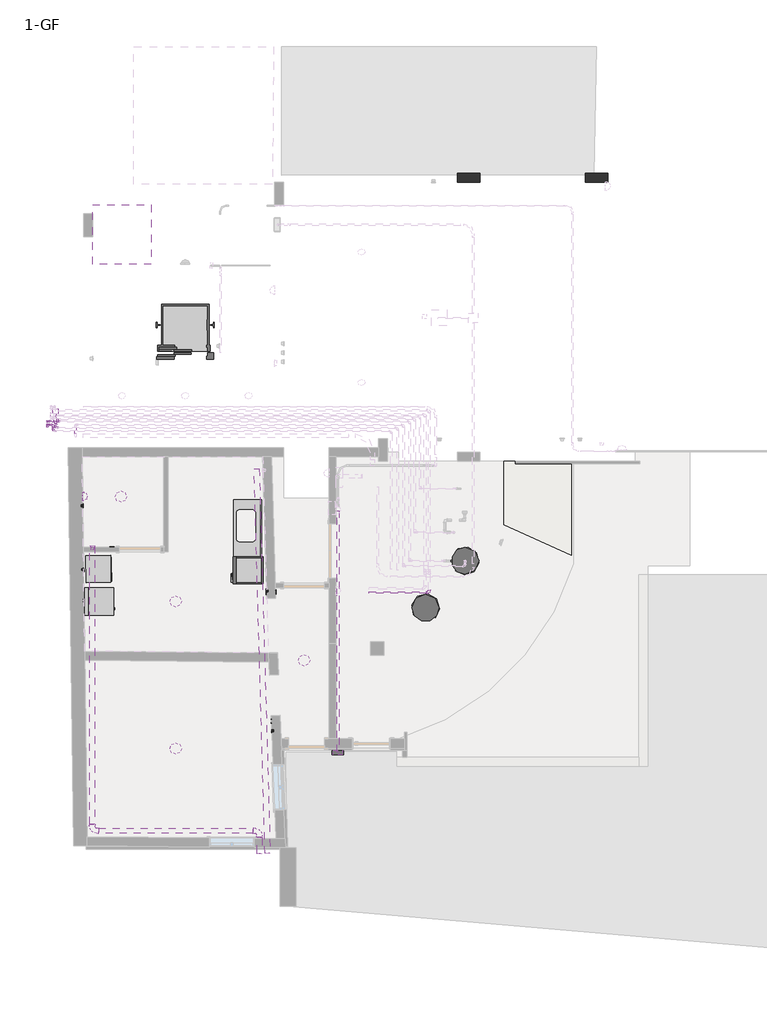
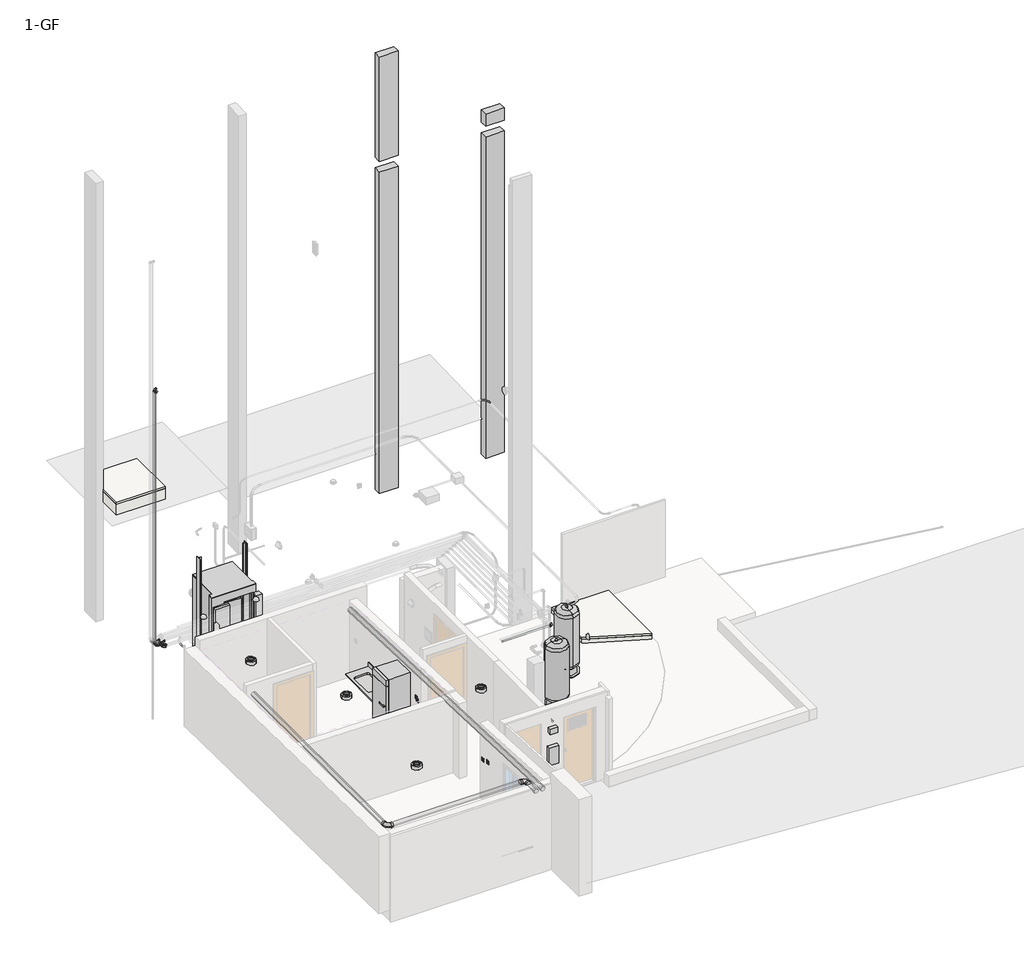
# One storey, part 2 of 5: 18 pipe segments, 15 pipe fittings, 13 proxies, 5 light fixtures, 4 switching devices, 3 flow terminals, 2 cable carrier segments, 2 columns, 3 other elements.
"""IFC4 building model written with IfcOpenShell, lengths in millimetres."""

from ifc_helpers import new_model, si_unit, point, frame, frame_2d, origin, place, context, project, spatial, polyline, circle_curve, trimmed, segment, composite_curve, outline, extrude, faceted_brep, transform, mapped, element, save
from components import dryer_1_nz_685_x_635_x_890mm_1b06d572, lighting_and_appliance_panelboard_100_a_b21e7274, lighting_and_appliance_panelboard_100_a_2_c7281d6f, m_electric_lift_4_person_wall_based_type_1_27931067, refrigerator_1_nz_600_x_660mm_a466bf94, wall_mounted_socket_ups_wall_mounted_socket_ups_4524048d, washer_2_nz_600_x_820_x_550mm_c1fca6b6, flow_terminal_60cm_be37bac6, fd_20cm_2b2fa0e1, hot_water_tank_60cm_0c93d085, counter_top_w_sink_600mm_depth_91ecdec2, ceiling_round_ceiling_round_0a96185f, street_light_07_uk_wall_mounted_e56fcad9, m_bend_pvc_sch_40_dwv_standard_48d77e49, m_bend_pvc_sch_40_dwv_standard_1fb0f857, m_bend_pvc_sch_40_dwv_standard_b153bf5a, m_bend_pvc_sch_40_dwv_standard_6bafc166, m_bend_pvc_sch_40_dwv_standard_f7713f3f, m_bend_pvc_sch_40_dwv_standard_1eaeee76, m_bend_pvc_sch_40_dwv_standard_be9000f5, switching_device_ab05ab5c

model = new_model("IFC4")

# Units and contexts
model_context = context("Model", 3, world=origin())
ifc_project = project(units=[si_unit("LENGTHUNIT", "METRE", prefix="MILLI")], contexts=[model_context])

# Site, building, storey
site = spatial("IfcSite", under=ifc_project)
building = spatial("IfcBuilding", under=site)
storey = spatial("IfcBuildingStorey", under=building, Name="1-GF", Elevation=580.0)

# Proxies
placement = place(None, origin())
dryer_1_nz_685_x_635_x_890mm_shape = dryer_1_nz_685_x_635_x_890mm_1b06d572(model_context)
element("IfcBuildingElementProxy", 1, Name="Dryer 1 (NZ) : 685 x 635 x 890mm", ObjectType="Dryer 1 (NZ) : 685 x 635 x 890mm", at=placement, inside=storey, context=model_context, shape_type="MappedRepresentation", body=[
    mapped(dryer_1_nz_685_x_635_x_890mm_shape, transform((-4395.3155884, -601.6313909, 580.0), x_axis=(0.0, 1.0, 0.0), y_axis=(-1.0, 0.0, 0.0), z_axis=(0.0, 0.0, 1.0))),
])
lighting_and_appliance_panelboard_100_a_shape = lighting_and_appliance_panelboard_100_a_b21e7274(model_context)
element("IfcBuildingElementProxy", 2, Name="Lighting and Appliance Panelboard : 100 A", ObjectType="Lighting and Appliance Panelboard : 100 A", at=placement, inside=storey, context=model_context, shape_type="MappedRepresentation", body=[
    mapped(lighting_and_appliance_panelboard_100_a_shape, transform((566.2825594, -3552.0661424, 2060.9), x_axis=(1.0, 0.0, 0.0), y_axis=(0.0, 0.0, -1.0), z_axis=(0.0, 1.0, 0.0))),
])
lighting_and_appliance_panelboard_100_a_2_shape = lighting_and_appliance_panelboard_100_a_2_c7281d6f(model_context)
element("IfcBuildingElementProxy", 3, Name="Lighting and Appliance Panelboard : 100 A 2", ObjectType="Lighting and Appliance Panelboard : 100 A 2", at=placement, inside=storey, context=model_context, shape_type="MappedRepresentation", body=[
    mapped(lighting_and_appliance_panelboard_100_a_2_shape, transform((566.2825594, -3552.0661424, 1360.9), x_axis=(1.0, 0.0, 0.0), y_axis=(0.0, 0.0, -1.0), z_axis=(0.0, 1.0, 0.0))),
])
m_electric_lift_4_person_wall_based_type_1_shape = m_electric_lift_4_person_wall_based_type_1_27931067(model_context)
element("IfcBuildingElementProxy", 4, Name="M_Electric Lift-4 person wall based : Type 1", ObjectType="M_Electric Lift-4 person wall based : Type 1", at=placement, inside=storey, context=model_context, shape_type="MappedRepresentation", body=[
    mapped(m_electric_lift_4_person_wall_based_type_1_shape, transform((-2932.4765921, 5159.4560655, 0.0), x_axis=(1.0, 0.0, 0.0), y_axis=(0.0, 1.0, 0.0), z_axis=(0.0, 0.0, 1.0))),
])
refrigerator_1_nz_600_x_660mm_shape = refrigerator_1_nz_600_x_660mm_a466bf94(model_context)
element("IfcBuildingElementProxy", 5, Name="Refrigerator 1 (NZ) : 600 x 660mm", ObjectType="Refrigerator 1 (NZ) : 600 x 660mm", at=placement, inside=storey, context=model_context, shape_type="MappedRepresentation", body=[
    mapped(refrigerator_1_nz_600_x_660mm_shape, transform((-1386.3916823, 370.3476194, 580.0), x_axis=(0.0, -1.0, 0.0), y_axis=(1.0, 0.0, 0.0), z_axis=(0.0, 0.0, 1.0))),
])
wall_mounted_socket_ups_wall_mounted_socket_ups_shape = wall_mounted_socket_ups_wall_mounted_socket_ups_4524048d(model_context)
element("IfcBuildingElementProxy", 6, Name="WALL MOUNTED SOCKET : WALL MOUNTED SOCKET", ObjectType="WALL MOUNTED SOCKET : WALL MOUNTED SOCKET", at=placement, inside=storey, context=model_context, shape_type="MappedRepresentation", body=[
    mapped(wall_mounted_socket_ups_wall_mounted_socket_ups_shape, transform((522.5234079, -365.5439345, 1030.0), x_axis=(0.0, 1.0, 0.0), y_axis=(0.0, 0.0, 1.0), z_axis=(1.0, 0.0, 0.0))),
])
element("IfcBuildingElementProxy", 7, Name="WALL MOUNTED SOCKET : WALL MOUNTED SOCKET", ObjectType="WALL MOUNTED SOCKET : WALL MOUNTED SOCKET", at=placement, inside=storey, context=model_context, shape_type="MappedRepresentation", body=[
    mapped(wall_mounted_socket_ups_wall_mounted_socket_ups_shape, transform((-5055.0472552, 441.8174885, 1780.0), x_axis=(-0.013162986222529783, 0.999913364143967, 0.0), y_axis=(0.0, 0.0, 1.0000000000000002), z_axis=(0.999913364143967, 0.013162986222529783, 0.0))),
])
element("IfcBuildingElementProxy", 8, Name="WALL MOUNTED SOCKET : WALL MOUNTED SOCKET", ObjectType="WALL MOUNTED SOCKET : WALL MOUNTED SOCKET", at=placement, inside=storey, context=model_context, shape_type="MappedRepresentation", body=[
    mapped(wall_mounted_socket_ups_wall_mounted_socket_ups_shape, transform((-5046.0332423, -242.9231833, 1780.0), x_axis=(-0.013162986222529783, 0.999913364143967, 0.0), y_axis=(0.0, 0.0, 1.0000000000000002), z_axis=(0.999913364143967, 0.013162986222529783, 0.0))),
])
element("IfcBuildingElementProxy", 9, Name="WALL MOUNTED SOCKET UPS : WALL MOUNTED SOCKET UPS", ObjectType="WALL MOUNTED SOCKET UPS : WALL MOUNTED SOCKET UPS", at=placement, inside=storey, context=model_context, shape_type="MappedRepresentation", body=[
    mapped(wall_mounted_socket_ups_wall_mounted_socket_ups_shape, transform((-5073.5891991, 1850.3381055, 1780.0), x_axis=(-0.013162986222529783, 0.999913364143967, 0.0), y_axis=(0.0, 0.0, 1.0000000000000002), z_axis=(0.999913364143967, 0.013162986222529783, 0.0))),
])
element("IfcBuildingElementProxy", 10, Name="WALL MOUNTED SOCKET UPS : WALL MOUNTED SOCKET UPS", ObjectType="WALL MOUNTED SOCKET UPS : WALL MOUNTED SOCKET UPS", at=placement, inside=storey, context=model_context, shape_type="MappedRepresentation", body=[
    mapped(wall_mounted_socket_ups_wall_mounted_socket_ups_shape, transform((-1009.4389595, -31.4858602, 1780.0), x_axis=(0.028460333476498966, -0.9995949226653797, 0.0), y_axis=(0.0, 0.0, 1.0), z_axis=(-0.9995949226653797, -0.028460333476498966, 0.0))),
])
element("IfcBuildingElementProxy", 11, Name="WALL MOUNTED SOCKET UPS : WALL MOUNTED SOCKET UPS", ObjectType="WALL MOUNTED SOCKET UPS : WALL MOUNTED SOCKET UPS", at=placement, inside=storey, context=model_context, shape_type="MappedRepresentation", body=[
    mapped(wall_mounted_socket_ups_wall_mounted_socket_ups_shape, transform((-891.4109413, -3120.1403573, 1780.0), x_axis=(0.03991052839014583, -0.9992032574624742, 0.0), y_axis=(0.0, 0.0, 1.0), z_axis=(-0.9992032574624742, -0.03991052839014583, 0.0))),
])
element("IfcBuildingElementProxy", 12, Name="WALL MOUNTED SOCKET UPS : WALL MOUNTED SOCKET UPS", ObjectType="WALL MOUNTED SOCKET UPS : WALL MOUNTED SOCKET UPS", at=placement, inside=storey, context=model_context, shape_type="MappedRepresentation", body=[
    mapped(wall_mounted_socket_ups_wall_mounted_socket_ups_shape, transform((-4857.4765921, 934.4560655, 2380.0), x_axis=(-1.0, 0.0, 0.0), y_axis=(0.0, 0.0, 1.0), z_axis=(0.0, 1.0, 0.0))),
])
washer_2_nz_600_x_820_x_550mm_shape = washer_2_nz_600_x_820_x_550mm_c1fca6b6(model_context)
element("IfcBuildingElementProxy", 13, Name="Washer 2 (NZ) : 600 x 820 x 550mm", ObjectType="Washer 2 (NZ) : 600 x 820 x 550mm", at=placement, inside=storey, context=model_context, shape_type="MappedRepresentation", body=[
    mapped(washer_2_nz_600_x_820_x_550mm_shape, transform((-5203.1562847, 297.1844984, 580.0), x_axis=(0.013162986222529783, -0.999913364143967, 0.0), y_axis=(0.999913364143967, 0.013162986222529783, 0.0), z_axis=(0.0, 0.0, 1.0))),
])

# Cable carrier segments
element("IfcCableCarrierSegment", 14, ObjectType="Electrical Metallic Tubing (EMT)", at=placement, inside=storey, context=model_context, shape_type="SweptSolid", body=[
    extrude(outline(composite_curve([segment(trimmed(circle_curve(frame_2d((510.825, 574.1505251)), 19.175), [point((510.825, 554.9755251))], [point((491.65, 574.1505251))], False, "CARTESIAN"), True, "CONTINUOUS"), segment(trimmed(circle_curve(frame_2d((510.825, 574.1505251)), 19.175), [point((491.65, 574.1505251))], [point((510.825, 593.3255251))], False, "CARTESIAN"), True, "CONTINUOUS"), segment(trimmed(circle_curve(frame_2d((510.825, 574.1505251)), 19.175), [point((510.825, 593.3255251))], [point((530.0, 574.1505251))], False, "CARTESIAN"), True, "CONTINUOUS"), segment(trimmed(circle_curve(frame_2d((510.825, 574.1505251)), 19.175), [point((530.0, 574.1505251))], [point((510.825, 554.9755251))], False, "CARTESIAN"), True, "CONTINUOUS")], self_intersect=False)), frame((0.0, -3379.382133, 0.0), z_axis=(0.0, 1.0, 0.0), x_axis=(0.0, 0.0, 1.0)), (0.0, 0.0, 1.0), 5600.47),
])
element("IfcCableCarrierSegment", 15, ObjectType="Low Current", at=placement, inside=storey, context=model_context, shape_type="SweptSolid", body=[
    extrude(outline(composite_curve([segment(trimmed(circle_curve(frame_2d((2703.1, 572.5468157)), 19.175), [point((2703.1, 553.3718157))], [point((2683.925, 572.5468157))], False, "CARTESIAN"), True, "CONTINUOUS"), segment(trimmed(circle_curve(frame_2d((2703.1, 572.5468157)), 19.175), [point((2683.925, 572.5468157))], [point((2703.1, 591.7218157))], False, "CARTESIAN"), True, "CONTINUOUS"), segment(trimmed(circle_curve(frame_2d((2703.1, 572.5468157)), 19.175), [point((2703.1, 591.7218157))], [point((2722.275, 572.5468157))], False, "CARTESIAN"), True, "CONTINUOUS"), segment(trimmed(circle_curve(frame_2d((2703.1, 572.5468157)), 19.175), [point((2722.275, 572.5468157))], [point((2703.1, 553.3718157))], False, "CARTESIAN"), True, "CONTINUOUS")], self_intersect=False)), frame((0.0, -3591.5141674, 0.0), z_axis=(0.0, 1.0, 0.0), x_axis=(0.0, 0.0, 1.0)), (0.0, 0.0, 1.0), 5337.5841674),
])

# Columns
element("IfcColumn", 16, ObjectType="M_Concrete-Rectangular-Column : 200 x500mm", at=placement, inside=storey, context=model_context, shape_type="Brep", body=[
    faceted_brep([(6542.5234079, 9201.6620874, 580.0), (6542.5234079, 9001.6620874, 580.0), (6042.5234079, 9001.6620874, 580.0), (6042.5234079, 9201.6620874, 580.0), (6542.5234079, 9001.6620874, 9650.0), (6542.5234079, 9201.6620874, 9650.0), (6042.5234079, 9201.6620874, 9650.0), (6042.5234079, 9001.6620874, 9650.0), (6542.5234079, 9201.6620874, 2750.0), (6542.5234079, 9201.6620874, 3000.0), (6542.5234079, 9201.6620874, 6550.0), (6542.5234079, 9001.6620874, 6550.0), (6542.5234079, 9001.6620874, 3000.0), (6542.5234079, 9001.6620874, 2750.0), (6042.5234079, 9001.6620874, 6550.0), (6042.5234079, 9001.6620874, 3000.0), (6042.5234079, 9001.6620874, 2750.0), (6042.5234079, 9201.6620874, 6550.0), (6042.5234079, 9201.6620874, 3000.0), (6042.5234079, 9201.6620874, 2750.0)], [[[0, 1, 2, 3]], [[4, 5, 6, 7]], [[1, 0, 8, 9, 10, 5, 4, 11, 12, 13]], [[2, 1, 13, 12, 11, 4, 7, 14, 15, 16]], [[3, 2, 16, 15, 14, 7, 6, 17, 18, 19]], [[0, 3, 19, 18, 17, 6, 5, 10, 9, 8]]]),
    faceted_brep([(6542.5234079, 9201.6620874, 10300.0), (6542.5234079, 9001.6620874, 10300.0), (6542.5234079, 9001.6620874, 9950.0), (6542.5234079, 9201.6620874, 9950.0), (6042.5234079, 9001.6620874, 10300.0), (6042.5234079, 9001.6620874, 9950.0), (6042.5234079, 9201.6620874, 10300.0), (6042.5234079, 9201.6620874, 9950.0)], [[[0, 1, 2, 3]], [[1, 4, 5, 2]], [[4, 6, 7, 5]], [[6, 0, 3, 7]], [[1, 0, 6, 4]], [[3, 2, 5, 7]]]),
])
element("IfcColumn", 17, ObjectType="M_Concrete-Rectangular-Column : 200 x500mm", at=placement, inside=storey, context=model_context, shape_type="Brep", body=[
    faceted_brep([(3712.5234079, 9201.6620874, 571.2417781), (3712.5234079, 9001.6620874, 571.2417781), (3212.5234079, 9001.6620874, 571.2417781), (3212.5234079, 9201.6620874, 571.2417781), (3712.5234079, 9001.6620874, 9650.0), (3712.5234079, 9201.6620874, 9650.0), (3212.5234079, 9201.6620874, 9650.0), (3212.5234079, 9001.6620874, 9650.0), (3712.5234079, 9201.6620874, 2750.0), (3712.5234079, 9201.6620874, 3000.0), (3712.5234079, 9201.6620874, 6550.0), (3712.5234079, 9001.6620874, 6550.0), (3712.5234079, 9001.6620874, 3000.0), (3712.5234079, 9001.6620874, 2750.0), (3212.5234079, 9001.6620874, 6550.0), (3212.5234079, 9001.6620874, 3000.0), (3212.5234079, 9001.6620874, 1950.0), (3212.5234079, 9201.6620874, 6550.0), (3212.5234079, 9201.6620874, 3000.0), (3212.5234079, 9201.6620874, 1950.0)], [[[0, 1, 2, 3]], [[4, 5, 6, 7]], [[1, 0, 8, 9, 10, 5, 4, 11, 12, 13]], [[2, 1, 13, 12, 11, 4, 7, 14, 15, 16]], [[3, 2, 16, 15, 14, 7, 6, 17, 18, 19]], [[0, 3, 19, 18, 17, 6, 5, 10, 9, 8]]]),
    faceted_brep([(3712.5234079, 9201.6620874, 12900.0), (3712.5234079, 9001.6620874, 12900.0), (3712.5234079, 9001.6620874, 9950.0), (3712.5234079, 9201.6620874, 9950.0), (3212.5234079, 9001.6620874, 12900.0), (3212.5234079, 9001.6620874, 9950.0), (3212.5234079, 9201.6620874, 12900.0), (3212.5234079, 9201.6620874, 9950.0)], [[[0, 1, 2, 3]], [[1, 4, 5, 2]], [[4, 6, 7, 5]], [[6, 0, 3, 7]], [[1, 0, 6, 4]], [[3, 2, 5, 7]]]),
])

# Flow terminals
flow_terminal_60cm_shape = flow_terminal_60cm_be37bac6(model_context)
element("IfcFlowTerminal", 18, ObjectType="_DUPLEX SOFTENER 60CM - : 60CM", at=placement, inside=storey, context=model_context, shape_type="MappedRepresentation", body=[
    mapped(flow_terminal_60cm_shape, transform((2507.7234079, -405.1794405, 580.0), x_axis=(1.0, 0.0, 0.0), y_axis=(0.0, 1.0, 0.0), z_axis=(0.0, 0.0, 1.0))),
])
fd_20cm_shape = fd_20cm_2b2fa0e1(model_context)
element("IfcFlowTerminal", 19, ObjectType="FD : 20cm", at=placement, inside=storey, context=model_context, shape_type="MappedRepresentation", body=[
    mapped(fd_20cm_shape, transform((2026.3853705, 1619.6205595, 580.0), x_axis=(1.0, 0.0, 0.0), y_axis=(0.0, 1.0, 0.0), z_axis=(0.0, 0.0, 1.0))),
])
hot_water_tank_60cm_shape = hot_water_tank_60cm_0c93d085(model_context)
element("IfcFlowTerminal", 20, ObjectType="Hot Water Tank : 60CM", at=placement, inside=storey, context=model_context, shape_type="MappedRepresentation", body=[
    mapped(hot_water_tank_60cm_shape, transform((3382.5234079, 634.4560655, 580.0), x_axis=(0.0, -1.0, 0.0), y_axis=(1.0, 0.0, 0.0), z_axis=(0.0, 0.0, 1.0))),
])

# Furniture
counter_top_w_sink_600mm_depth_shape = counter_top_w_sink_600mm_depth_91ecdec2(model_context)
element("IfcFurniture", 21, ObjectType="Counter Top w Sink : 600mm Depth", at=placement, inside=storey, context=model_context, shape_type="MappedRepresentation", body=[
    mapped(counter_top_w_sink_600mm_depth_shape, transform((-1117.4765921, 783.9937704, 580.0), x_axis=(0.0, -1.0, 0.0), y_axis=(1.0, 0.0, 0.0), z_axis=(0.0, 0.0, 1.0))),
])

# Light fixtures
ceiling_round_ceiling_round_shape = ceiling_round_ceiling_round_0a96185f(model_context)
element("IfcLightFixture", 22, ObjectType="Ceiling - Round : Ceiling - Round", at=placement, inside=storey, context=model_context, shape_type="MappedRepresentation", body=[
    mapped(ceiling_round_ceiling_round_shape, transform((-177.4765921, -1565.5439345, 299.6), x_axis=(1.0, 0.0, 0.0), y_axis=(0.0, 1.0, 0.0), z_axis=(0.0, 0.0, 1.0))),
])
element("IfcLightFixture", 23, ObjectType="Ceiling - Round : Ceiling - Round", at=placement, inside=storey, context=model_context, shape_type="MappedRepresentation", body=[
    mapped(ceiling_round_ceiling_round_shape, transform((-4227.8606653, 2054.4560655, 299.6), x_axis=(1.0, 0.0, 0.0), y_axis=(0.0, 1.0, 0.0), z_axis=(0.0, 0.0, 1.0))),
])
element("IfcLightFixture", 24, ObjectType="Ceiling - Round : Ceiling - Round", at=placement, inside=storey, context=model_context, shape_type="MappedRepresentation", body=[
    mapped(ceiling_round_ceiling_round_shape, transform((-3017.9439676, -262.6636781, 299.6), x_axis=(1.0, 0.0, 0.0), y_axis=(0.0, 1.0, 0.0), z_axis=(0.0, 0.0, 1.0))),
])
element("IfcLightFixture", 25, ObjectType="Ceiling - Round : Ceiling - Round", at=placement, inside=storey, context=model_context, shape_type="MappedRepresentation", body=[
    mapped(ceiling_round_ceiling_round_shape, transform((-3017.9439676, -3512.6824155, 299.6), x_axis=(1.0, 0.0, 0.0), y_axis=(0.0, 1.0, 0.0), z_axis=(0.0, 0.0, 1.0))),
])
street_light_07_uk_wall_mounted_shape = street_light_07_uk_wall_mounted_e56fcad9(model_context)
element("IfcLightFixture", 26, ObjectType="Street Light 07 (UK) : Wall Mounted", at=placement, inside=storey, context=model_context, shape_type="MappedRepresentation", body=[
    mapped(street_light_07_uk_wall_mounted_shape, transform((-5227.9544526, 2180.9530517, 101.3392083), x_axis=(0.013162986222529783, -0.999913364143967, 0.0), y_axis=(0.999913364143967, 0.013162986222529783, 0.0), z_axis=(0.0, 0.0, 1.0))),
])

# Pipe fittings
m_bend_pvc_sch_40_dwv_standard_shape = m_bend_pvc_sch_40_dwv_standard_48d77e49(model_context)
element("IfcPipeFitting", 27, ObjectType="M_Bend - PVC - Sch 40 - DWV : Standard", at=placement, inside=storey, context=model_context, shape_type="MappedRepresentation", body=[
    mapped(m_bend_pvc_sch_40_dwv_standard_shape, transform((2587.5267351, -64.801296, 2580.0), x_axis=(1.0, 0.0, 0.0), y_axis=(0.0, 1.0, 0.0), z_axis=(0.0, 0.0, 1.0))),
])
m_bend_pvc_sch_40_dwv_standard_2_shape = m_bend_pvc_sch_40_dwv_standard_1fb0f857(model_context)
element("IfcPipeFitting", 28, ObjectType="M_Bend - PVC - Sch 40 - DWV : Standard", at=placement, inside=storey, context=model_context, shape_type="MappedRepresentation", body=[
    mapped(m_bend_pvc_sch_40_dwv_standard_2_shape, transform((-4865.9473838, -5330.6289214, 2700.0), x_axis=(0.0, -1.0, 0.0), y_axis=(1.0, 0.0, 0.0), z_axis=(0.0, 0.0, 1.0))),
])
element("IfcPipeFitting", 29, ObjectType="M_Bend - PVC - Sch 40 - DWV : Standard", at=placement, inside=storey, context=model_context, shape_type="MappedRepresentation", body=[
    mapped(m_bend_pvc_sch_40_dwv_standard_2_shape, transform((-1165.9473838, -5330.6289214, 2700.0), x_axis=(0.0, 1.0, 0.0), y_axis=(-1.0, 0.0, 0.0), z_axis=(0.0, 0.0, 1.0))),
])
m_bend_pvc_sch_40_dwv_standard_3_shape = m_bend_pvc_sch_40_dwv_standard_b153bf5a(model_context)
element("IfcPipeFitting", 30, ObjectType="M_Bend - PVC - Sch 40 - DWV : Standard", at=placement, inside=storey, context=model_context, shape_type="MappedRepresentation", body=[
    mapped(m_bend_pvc_sch_40_dwv_standard_3_shape, transform((-5629.7730546, 3714.4560655, 2580.0), x_axis=(0.0, -1.0, 0.0), y_axis=(0.0, 0.0, 1.0), z_axis=(-1.0, 0.0, 0.0))),
])
element("IfcPipeFitting", 31, ObjectType="M_Bend - PVC - Sch 40 - DWV : Standard", at=placement, inside=storey, context=model_context, shape_type="MappedRepresentation", body=[
    mapped(m_bend_pvc_sch_40_dwv_standard_3_shape, transform((-5629.7730546, 3714.4560655, 2700.0), x_axis=(0.0, 0.0, 1.0), y_axis=(1.0, 0.0, 0.0), z_axis=(0.0, 1.0, 0.0))),
])
element("IfcPipeFitting", 32, ObjectType="M_Bend - PVC - Sch 40 - DWV : Standard", at=placement, inside=storey, context=model_context, shape_type="MappedRepresentation", body=[
    mapped(m_bend_pvc_sch_40_dwv_standard_3_shape, transform((-5852.9770075, 3643.2484453, 9900.0), x_axis=(0.0, 0.0, 1.0), y_axis=(0.0, -1.0, 0.0), z_axis=(1.0, 0.0, 0.0))),
])
element("IfcPipeFitting", 33, ObjectType="M_Bend - PVC - Sch 40 - DWV : Standard", at=placement, inside=storey, context=model_context, shape_type="MappedRepresentation", body=[
    mapped(m_bend_pvc_sch_40_dwv_standard_3_shape, transform((-5852.9770075, 3643.2484453, 2700.0), x_axis=(0.0, 0.0, -1.0), y_axis=(1.0, 0.0, 0.0), z_axis=(0.0, -1.0, 0.0))),
])
element("IfcPipeFitting", 34, ObjectType="M_Bend - PVC - Sch 40 - DWV : Standard", at=placement, inside=storey, context=model_context, shape_type="MappedRepresentation", body=[
    mapped(m_bend_pvc_sch_40_dwv_standard_3_shape, transform((-5667.4765921, 3716.8684602, 2700.0), x_axis=(0.0, 1.0, 0.0), y_axis=(-1.0, 0.0, 0.0), z_axis=(0.0, 0.0, 1.0))),
])
element("IfcPipeFitting", 35, ObjectType="M_Bend - PVC - Sch 40 - DWV : Standard", at=placement, inside=storey, context=model_context, shape_type="MappedRepresentation", body=[
    mapped(m_bend_pvc_sch_40_dwv_standard_3_shape, transform((-5667.4765921, 3571.8684602, 2700.0), x_axis=(0.0, -1.0, 0.0), y_axis=(1.0, 0.0, 0.0), z_axis=(0.0, 0.0, 1.0))),
])
element("IfcPipeFitting", 36, ObjectType="M_Bend - PVC - Sch 40 - DWV : Standard", at=placement, inside=storey, context=model_context, shape_type="MappedRepresentation", body=[
    mapped(m_bend_pvc_sch_40_dwv_standard_3_shape, transform((-5722.3488927, 3643.2484453, 2700.0), x_axis=(0.0, 1.0, 0.0), y_axis=(-1.0, 0.0, 0.0), z_axis=(0.0, 0.0, 1.0))),
])
element("IfcPipeFitting", 37, ObjectType="M_Bend - PVC - Sch 40 - DWV : Standard", at=placement, inside=storey, context=model_context, shape_type="MappedRepresentation", body=[
    mapped(m_bend_pvc_sch_40_dwv_standard_3_shape, transform((-5722.3488927, 3503.2484453, 2700.0), x_axis=(0.0, -1.0, 0.0), y_axis=(1.0, 0.0, 0.0), z_axis=(0.0, 0.0, 1.0))),
])
m_bend_pvc_sch_40_dwv_standard_4_shape = m_bend_pvc_sch_40_dwv_standard_6bafc166(model_context)
element("IfcPipeFitting", 38, ObjectType="M_Bend - PVC - Sch 40 - DWV : Standard", at=placement, inside=storey, context=model_context, shape_type="MappedRepresentation", body=[
    mapped(m_bend_pvc_sch_40_dwv_standard_4_shape, transform((-5852.9771979, 3716.8684602, 9900.0237998), x_axis=(0.0, 0.0, 1.0), y_axis=(1.0, 0.0, 0.0), z_axis=(0.0, 1.0, 0.0))),
])
m_bend_pvc_sch_40_dwv_standard_5_shape = m_bend_pvc_sch_40_dwv_standard_f7713f3f(model_context)
element("IfcPipeFitting", 39, ObjectType="M_Bend - PVC - Sch 40 - DWV : Standard", at=placement, inside=storey, context=model_context, shape_type="MappedRepresentation", body=[
    mapped(m_bend_pvc_sch_40_dwv_standard_5_shape, transform((-5852.9770075, 3716.8684602, 2700.0), x_axis=(3.6195579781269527e-06, 0.0, -0.9999999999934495), y_axis=(0.9999999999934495, 0.0, 3.6195579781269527e-06), z_axis=(0.0, -1.0, 0.0))),
])
m_bend_pvc_sch_40_dwv_standard_6_shape = m_bend_pvc_sch_40_dwv_standard_1eaeee76(model_context)
element("IfcPipeFitting", 40, ObjectType="M_Bend - PVC - Sch 40 - DWV : Standard", at=placement, inside=storey, context=model_context, shape_type="MappedRepresentation", body=[
    mapped(m_bend_pvc_sch_40_dwv_standard_6_shape, transform((2026.3853705, -3325.2182856, 517.5), x_axis=(0.0, -1.0, 0.0), y_axis=(1.0, 0.0, 0.0), z_axis=(0.0, 0.0, 1.0))),
])
m_bend_pvc_sch_40_dwv_standard_7_shape = m_bend_pvc_sch_40_dwv_standard_be9000f5(model_context)
element("IfcPipeFitting", 41, ObjectType="M_Bend - PVC - Sch 40 - DWV : Standard", at=placement, inside=storey, context=model_context, shape_type="MappedRepresentation", body=[
    mapped(m_bend_pvc_sch_40_dwv_standard_7_shape, transform((-5698.6248234, 3823.9412775, 2700.0), x_axis=(0.0, 0.0, 1.0), y_axis=(1.0, 0.0, 0.0), z_axis=(0.0, 1.0, 0.0))),
])

# Pipe segments
element("IfcPipeSegment", 42, ObjectType="PVC - DWV", at=placement, inside=storey, context=model_context, shape_type="SweptSolid", body=[
    extrude(outline(composite_curve([segment(trimmed(circle_curve(frame_2d((-5852.9771979, 3716.8684602)), 16.7005), [point((-5836.2766979, 3716.8684602))], [point((-5852.9771979, 3700.1679602))], False, "CARTESIAN"), True, "CONTINUOUS"), segment(trimmed(circle_curve(frame_2d((-5852.9771979, 3716.8684602)), 16.7005), [point((-5852.9771979, 3700.1679602))], [point((-5869.6776979, 3716.8684602))], False, "CARTESIAN"), True, "CONTINUOUS"), segment(trimmed(circle_curve(frame_2d((-5852.9771979, 3716.8684602)), 16.7005), [point((-5869.6776979, 3716.8684602))], [point((-5852.9771979, 3733.5689602))], False, "CARTESIAN"), True, "CONTINUOUS"), segment(trimmed(circle_curve(frame_2d((-5852.9771979, 3716.8684602)), 16.7005), [point((-5852.9771979, 3733.5689602))], [point((-5836.2766979, 3716.8684602))], False, "CARTESIAN"), True, "CONTINUOUS")], self_intersect=False)), frame((0.0, 0.0, 2752.6140625), z_axis=(0.0, 0.0, 1.0), x_axis=(1.0, 0.0, 0.0)), (0.0, 0.0, 1.0), 7094.7956748),
])
element("IfcPipeSegment", 43, ObjectType="PVC - DWV", at=placement, inside=storey, context=model_context, shape_type="SweptSolid", body=[
    extrude(outline(composite_curve([segment(trimmed(circle_curve(frame_2d((-5852.9770075, 3643.2484453)), 16.7005), [point((-5836.2765075, 3643.2484453))], [point((-5852.9770075, 3626.5479453))], False, "CARTESIAN"), True, "CONTINUOUS"), segment(trimmed(circle_curve(frame_2d((-5852.9770075, 3643.2484453)), 16.7005), [point((-5852.9770075, 3626.5479453))], [point((-5869.6775075, 3643.2484453))], False, "CARTESIAN"), True, "CONTINUOUS"), segment(trimmed(circle_curve(frame_2d((-5852.9770075, 3643.2484453)), 16.7005), [point((-5869.6775075, 3643.2484453))], [point((-5852.9770075, 3659.9489453))], False, "CARTESIAN"), True, "CONTINUOUS"), segment(trimmed(circle_curve(frame_2d((-5852.9770075, 3643.2484453)), 16.7005), [point((-5852.9770075, 3659.9489453))], [point((-5836.2765075, 3643.2484453))], False, "CARTESIAN"), True, "CONTINUOUS")], self_intersect=False)), frame((0.0, 0.0, 2752.6140625), z_axis=(0.0, 0.0, 1.0), x_axis=(1.0, 0.0, 0.0)), (0.0, 0.0, 1.0), 7094.771875),
])
element("IfcPipeSegment", 44, ObjectType="PVC - DWV", at=placement, inside=storey, context=model_context, shape_type="SweptSolid", body=[
    extrude(outline(composite_curve([segment(trimmed(circle_curve(frame_2d((2580.0, -5767.4765921)), 16.7005), [point((2580.0, -5784.1770921))], [point((2563.2995, -5767.4765921))], False, "CARTESIAN"), True, "CONTINUOUS"), segment(trimmed(circle_curve(frame_2d((2580.0, -5767.4765921)), 16.7005), [point((2563.2995, -5767.4765921))], [point((2580.0, -5750.7760921))], False, "CARTESIAN"), True, "CONTINUOUS"), segment(trimmed(circle_curve(frame_2d((2580.0, -5767.4765921)), 16.7005), [point((2580.0, -5750.7760921))], [point((2596.7005, -5767.4765921))], False, "CARTESIAN"), True, "CONTINUOUS"), segment(trimmed(circle_curve(frame_2d((2580.0, -5767.4765921)), 16.7005), [point((2596.7005, -5767.4765921))], [point((2580.0, -5784.1770921))], False, "CARTESIAN"), True, "CONTINUOUS")], self_intersect=False)), frame((0.0, 3824.3536819, 0.0), z_axis=(0.0, 1.0, 0.0), x_axis=(0.0, 0.0, 1.0)), (0.0, 0.0, 1.0), 171.5848913),
])
element("IfcPipeSegment", 45, ObjectType="PVC - DWV", at=placement, inside=storey, context=model_context, shape_type="SweptSolid", body=[
    extrude(outline(composite_curve([segment(trimmed(circle_curve(frame_2d((2580.0, -5629.7730546)), 16.7005), [point((2580.0, -5646.4735546))], [point((2563.2995, -5629.7730546))], False, "CARTESIAN"), True, "CONTINUOUS"), segment(trimmed(circle_curve(frame_2d((2580.0, -5629.7730546)), 16.7005), [point((2563.2995, -5629.7730546))], [point((2580.0, -5613.0725546))], False, "CARTESIAN"), True, "CONTINUOUS"), segment(trimmed(circle_curve(frame_2d((2580.0, -5629.7730546)), 16.7005), [point((2580.0, -5613.0725546))], [point((2596.7005, -5629.7730546))], False, "CARTESIAN"), True, "CONTINUOUS"), segment(trimmed(circle_curve(frame_2d((2580.0, -5629.7730546)), 16.7005), [point((2596.7005, -5629.7730546))], [point((2580.0, -5646.4735546))], False, "CARTESIAN"), True, "CONTINUOUS")], self_intersect=False)), frame((0.0, 3767.070128, 0.0), z_axis=(0.0, 1.0, 0.0), x_axis=(0.0, 0.0, 1.0)), (0.0, 0.0, 1.0), 226.3213575),
])
element("IfcPipeSegment", 46, ObjectType="PVC - DWV", at=placement, inside=storey, context=model_context, shape_type="SweptSolid", body=[
    extrude(outline(composite_curve([segment(trimmed(circle_curve(frame_2d((-5629.7730546, 3714.4560655)), 16.7005), [point((-5646.4735546, 3714.4560655))], [point((-5629.7730546, 3731.1565655))], False, "CARTESIAN"), True, "CONTINUOUS"), segment(trimmed(circle_curve(frame_2d((-5629.7730546, 3714.4560655)), 16.7005), [point((-5629.7730546, 3731.1565655))], [point((-5613.0725546, 3714.4560655))], False, "CARTESIAN"), True, "CONTINUOUS"), segment(trimmed(circle_curve(frame_2d((-5629.7730546, 3714.4560655)), 16.7005), [point((-5613.0725546, 3714.4560655))], [point((-5629.7730546, 3697.7555655))], False, "CARTESIAN"), True, "CONTINUOUS"), segment(trimmed(circle_curve(frame_2d((-5629.7730546, 3714.4560655)), 16.7005), [point((-5629.7730546, 3697.7555655))], [point((-5646.4735546, 3714.4560655))], False, "CARTESIAN"), True, "CONTINUOUS")], self_intersect=False)), frame((0.0, 0.0, 2632.6140625), z_axis=(0.0, 0.0, 1.0), x_axis=(1.0, 0.0, 0.0)), (0.0, 0.0, 1.0), 14.771875),
])
element("IfcPipeSegment", 47, ObjectType="PVC - DWV", at=placement, inside=storey, context=model_context, shape_type="SweptSolid", body=[
    extrude(outline(composite_curve([segment(trimmed(circle_curve(frame_2d((3716.8684602, 2700.0)), 16.7005), [point((3700.1679602, 2700.0))], [point((3716.8684602, 2716.7005))], False, "CARTESIAN"), True, "CONTINUOUS"), segment(trimmed(circle_curve(frame_2d((3716.8684602, 2700.0)), 16.7005), [point((3716.8684602, 2716.7005))], [point((3733.5689602, 2700.0))], False, "CARTESIAN"), True, "CONTINUOUS"), segment(trimmed(circle_curve(frame_2d((3716.8684602, 2700.0)), 16.7005), [point((3733.5689602, 2700.0))], [point((3716.8684602, 2683.2995))], False, "CARTESIAN"), True, "CONTINUOUS"), segment(trimmed(circle_curve(frame_2d((3716.8684602, 2700.0)), 16.7005), [point((3716.8684602, 2683.2995))], [point((3700.1679602, 2700.0))], False, "CARTESIAN"), True, "CONTINUOUS")], self_intersect=False)), frame((-5800.362945, 0.0, 0.0), z_axis=(1.0, 0.0, 0.0), x_axis=(0.0, 1.0, 0.0)), (0.0, 0.0, 1.0), 80.2722904),
])
element("IfcPipeSegment", 48, ObjectType="PVC - DWV", at=placement, inside=storey, context=model_context, shape_type="SweptSolid", body=[
    extrude(outline(composite_curve([segment(trimmed(circle_curve(frame_2d((2700.0, -5667.4765921)), 16.7005), [point((2700.0, -5684.1770921))], [point((2683.2995, -5667.4765921))], False, "CARTESIAN"), True, "CONTINUOUS"), segment(trimmed(circle_curve(frame_2d((2700.0, -5667.4765921)), 16.7005), [point((2683.2995, -5667.4765921))], [point((2700.0, -5650.7760921))], False, "CARTESIAN"), True, "CONTINUOUS"), segment(trimmed(circle_curve(frame_2d((2700.0, -5667.4765921)), 16.7005), [point((2700.0, -5650.7760921))], [point((2716.7005, -5667.4765921))], False, "CARTESIAN"), True, "CONTINUOUS"), segment(trimmed(circle_curve(frame_2d((2700.0, -5667.4765921)), 16.7005), [point((2716.7005, -5667.4765921))], [point((2700.0, -5684.1770921))], False, "CARTESIAN"), True, "CONTINUOUS")], self_intersect=False)), frame((0.0, 3624.4825227, 0.0), z_axis=(0.0, 1.0, 0.0), x_axis=(0.0, 0.0, 1.0)), (0.0, 0.0, 1.0), 39.771875),
])
element("IfcPipeSegment", 49, ObjectType="PVC - DWV", at=placement, inside=storey, context=model_context, shape_type="SweptSolid", body=[
    extrude(outline(composite_curve([segment(trimmed(circle_curve(frame_2d((3643.2484453, 2700.0)), 16.7005), [point((3626.5479453, 2700.0))], [point((3643.2484453, 2716.7005))], False, "CARTESIAN"), True, "CONTINUOUS"), segment(trimmed(circle_curve(frame_2d((3643.2484453, 2700.0)), 16.7005), [point((3643.2484453, 2716.7005))], [point((3659.9489453, 2700.0))], False, "CARTESIAN"), True, "CONTINUOUS"), segment(trimmed(circle_curve(frame_2d((3643.2484453, 2700.0)), 16.7005), [point((3659.9489453, 2700.0))], [point((3643.2484453, 2683.2995))], False, "CARTESIAN"), True, "CONTINUOUS"), segment(trimmed(circle_curve(frame_2d((3643.2484453, 2700.0)), 16.7005), [point((3643.2484453, 2683.2995))], [point((3626.5479453, 2700.0))], False, "CARTESIAN"), True, "CONTINUOUS")], self_intersect=False)), frame((-5800.362945, 0.0, 0.0), z_axis=(1.0, 0.0, 0.0), x_axis=(0.0, 1.0, 0.0)), (0.0, 0.0, 1.0), 25.3999898),
])
element("IfcPipeSegment", 50, ObjectType="PVC - DWV", at=placement, inside=storey, context=model_context, shape_type="SweptSolid", body=[
    extrude(outline(composite_curve([segment(trimmed(circle_curve(frame_2d((2700.0, -5722.3488927)), 16.7005), [point((2700.0, -5739.0493927))], [point((2683.2995, -5722.3488927))], False, "CARTESIAN"), True, "CONTINUOUS"), segment(trimmed(circle_curve(frame_2d((2700.0, -5722.3488927)), 16.7005), [point((2683.2995, -5722.3488927))], [point((2700.0, -5705.6483927))], False, "CARTESIAN"), True, "CONTINUOUS"), segment(trimmed(circle_curve(frame_2d((2700.0, -5722.3488927)), 16.7005), [point((2700.0, -5705.6483927))], [point((2716.7005, -5722.3488927))], False, "CARTESIAN"), True, "CONTINUOUS"), segment(trimmed(circle_curve(frame_2d((2700.0, -5722.3488927)), 16.7005), [point((2716.7005, -5722.3488927))], [point((2700.0, -5739.0493927))], False, "CARTESIAN"), True, "CONTINUOUS")], self_intersect=False)), frame((0.0, 3555.8625078, 0.0), z_axis=(0.0, 1.0, 0.0), x_axis=(0.0, 0.0, 1.0)), (0.0, 0.0, 1.0), 34.771875),
])
element("IfcPipeSegment", 51, ObjectType="PVC - DWV", at=placement, inside=storey, context=model_context, shape_type="SweptSolid", body=[
    extrude(outline(composite_curve([segment(trimmed(circle_curve(frame_2d((2580.0, -5234.2694836)), 16.7005), [point((2580.0, -5250.9699836))], [point((2563.2995, -5234.2694836))], False, "CARTESIAN"), True, "CONTINUOUS"), segment(trimmed(circle_curve(frame_2d((2580.0, -5234.2694836)), 16.7005), [point((2563.2995, -5234.2694836))], [point((2580.0, -5217.5689836))], False, "CARTESIAN"), True, "CONTINUOUS"), segment(trimmed(circle_curve(frame_2d((2580.0, -5234.2694836)), 16.7005), [point((2580.0, -5217.5689836))], [point((2596.7005, -5234.2694836))], False, "CARTESIAN"), True, "CONTINUOUS"), segment(trimmed(circle_curve(frame_2d((2580.0, -5234.2694836)), 16.7005), [point((2596.7005, -5234.2694836))], [point((2580.0, -5250.9699836))], False, "CARTESIAN"), True, "CONTINUOUS")], self_intersect=False)), frame((0.0, 3439.6425946, 0.0), z_axis=(0.0, 1.0, 0.0), x_axis=(0.0, 0.0, 1.0)), (0.0, 0.0, 1.0), 147.1994083),
])
element("IfcPipeSegment", 52, ObjectType="PVC - DWV", at=placement, inside=storey, context=model_context, shape_type="SweptSolid", body=[
    extrude(outline(composite_curve([segment(trimmed(circle_curve(frame_2d((-5234.2694836, 3639.4560655)), 16.7005), [point((-5217.5689836, 3639.4560655))], [point((-5234.2694836, 3622.7555655))], False, "CARTESIAN"), True, "CONTINUOUS"), segment(trimmed(circle_curve(frame_2d((-5234.2694836, 3639.4560655)), 16.7005), [point((-5234.2694836, 3622.7555655))], [point((-5250.9699836, 3639.4560655))], False, "CARTESIAN"), True, "CONTINUOUS"), segment(trimmed(circle_curve(frame_2d((-5234.2694836, 3639.4560655)), 16.7005), [point((-5250.9699836, 3639.4560655))], [point((-5234.2694836, 3656.1565655))], False, "CARTESIAN"), True, "CONTINUOUS"), segment(trimmed(circle_curve(frame_2d((-5234.2694836, 3639.4560655)), 16.7005), [point((-5234.2694836, 3656.1565655))], [point((-5217.5689836, 3639.4560655))], False, "CARTESIAN"), True, "CONTINUOUS")], self_intersect=False)), frame((0.0, 0.0, 2632.6140625), z_axis=(0.0, 0.0, 1.0), x_axis=(1.0, 0.0, 0.0)), (0.0, 0.0, 1.0), 14.771875),
])
element("IfcPipeSegment", 53, ObjectType="PVC - DWV", at=placement, inside=storey, context=model_context, shape_type="SweptSolid", body=[
    extrude(outline(composite_curve([segment(trimmed(circle_curve(frame_2d((517.5, 2026.3853705)), 30.1625), [point((517.5, 1996.2228705))], [point((487.3375, 2026.3853705))], False, "CARTESIAN"), True, "CONTINUOUS"), segment(trimmed(circle_curve(frame_2d((517.5, 2026.3853705)), 30.1625), [point((487.3375, 2026.3853705))], [point((517.5, 2056.5478705))], False, "CARTESIAN"), True, "CONTINUOUS"), segment(trimmed(circle_curve(frame_2d((517.5, 2026.3853705)), 30.1625), [point((517.5, 2056.5478705))], [point((547.6625, 2026.3853705))], False, "CARTESIAN"), True, "CONTINUOUS"), segment(trimmed(circle_curve(frame_2d((517.5, 2026.3853705)), 30.1625), [point((547.6625, 2026.3853705))], [point((517.5, 1996.2228705))], False, "CARTESIAN"), True, "CONTINUOUS")], self_intersect=False)), frame((0.0, -3247.4180856, 0.0), z_axis=(0.0, 1.0, 0.0), x_axis=(0.0, 0.0, 1.0)), (0.0, 0.0, 1.0), 4622.1998),
])
element("IfcPipeSegment", 54, ObjectType="PVC - DWV", at=placement, inside=storey, context=model_context, shape_type="SweptSolid", body=[
    extrude(outline(composite_curve([segment(trimmed(circle_curve(frame_2d((-3325.2182856, 517.5)), 30.1625), [point((-3355.3807856, 517.5))], [point((-3325.2182856, 547.6625))], False, "CARTESIAN"), True, "CONTINUOUS"), segment(trimmed(circle_curve(frame_2d((-3325.2182856, 517.5)), 30.1625), [point((-3325.2182856, 547.6625))], [point((-3295.0557856, 517.5))], False, "CARTESIAN"), True, "CONTINUOUS"), segment(trimmed(circle_curve(frame_2d((-3325.2182856, 517.5)), 30.1625), [point((-3295.0557856, 517.5))], [point((-3325.2182856, 487.3375))], False, "CARTESIAN"), True, "CONTINUOUS"), segment(trimmed(circle_curve(frame_2d((-3325.2182856, 517.5)), 30.1625), [point((-3325.2182856, 487.3375))], [point((-3355.3807856, 517.5))], False, "CARTESIAN"), True, "CONTINUOUS")], self_intersect=False)), frame((2104.1855705, 0.0, 0.0), z_axis=(1.0, 0.0, 0.0), x_axis=(0.0, 1.0, 0.0)), (0.0, 0.0, 1.0), 62.1998),
])
element("IfcPipeSegment", 55, ObjectType="PVC - DWV", at=placement, inside=storey, context=model_context, shape_type="SweptSolid", body=[
    extrude(outline(composite_curve([segment(trimmed(circle_curve(frame_2d((-64.801296, 2580.0)), 21.082), [point((-43.719296, 2580.0))], [point((-64.801296, 2558.918))], False, "CARTESIAN"), True, "CONTINUOUS"), segment(trimmed(circle_curve(frame_2d((-64.801296, 2580.0)), 21.082), [point((-64.801296, 2558.918))], [point((-85.883296, 2580.0))], False, "CARTESIAN"), True, "CONTINUOUS"), segment(trimmed(circle_curve(frame_2d((-64.801296, 2580.0)), 21.082), [point((-85.883296, 2580.0))], [point((-64.801296, 2601.082))], False, "CARTESIAN"), True, "CONTINUOUS"), segment(trimmed(circle_curve(frame_2d((-64.801296, 2580.0)), 21.082), [point((-64.801296, 2601.082))], [point((-43.719296, 2580.0))], False, "CARTESIAN"), True, "CONTINUOUS")], self_intersect=False)), frame((1257.5267351, 0.0, 0.0), z_axis=(1.0, 0.0, 0.0), x_axis=(0.0, 1.0, 0.0)), (0.0, 0.0, 1.0), 1272.85),
])
element("IfcPipeSegment", 56, ObjectType="PVC - DWV", at=placement, inside=storey, context=model_context, shape_type="SweptSolid", body=[
    extrude(outline(composite_curve([segment(trimmed(circle_curve(frame_2d((2700.0, -4865.9473838)), 57.15), [point((2700.0, -4808.7973838))], [point((2757.15, -4865.9473838))], False, "CARTESIAN"), True, "CONTINUOUS"), segment(trimmed(circle_curve(frame_2d((2700.0, -4865.9473838)), 57.15), [point((2757.15, -4865.9473838))], [point((2700.0, -4923.0973838))], False, "CARTESIAN"), True, "CONTINUOUS"), segment(trimmed(circle_curve(frame_2d((2700.0, -4865.9473838)), 57.15), [point((2700.0, -4923.0973838))], [point((2642.85, -4865.9473838))], False, "CARTESIAN"), True, "CONTINUOUS"), segment(trimmed(circle_curve(frame_2d((2700.0, -4865.9473838)), 57.15), [point((2642.85, -4865.9473838))], [point((2700.0, -4808.7973838))], False, "CARTESIAN"), True, "CONTINUOUS")], self_intersect=False)), frame((0.0, -5187.7539214, 0.0), z_axis=(0.0, 1.0, 0.0), x_axis=(0.0, 0.0, 1.0)), (0.0, 0.0, 1.0), 6157.125),
])
element("IfcPipeSegment", 57, ObjectType="PVC - DWV", at=placement, inside=storey, context=model_context, shape_type="SweptSolid", body=[
    extrude(outline(composite_curve([segment(trimmed(circle_curve(frame_2d((0.0, -57.15)), 57.15), [point((-57.1500001, -57.15))], [point((0.0, 0.0))], False, "CARTESIAN"), True, "CONTINUOUS"), segment(trimmed(circle_curve(frame_2d((0.0, -57.15)), 57.15), [point((0.0, 0.0))], [point((57.15, -57.15))], False, "CARTESIAN"), True, "CONTINUOUS"), segment(trimmed(circle_curve(frame_2d((0.0, -57.15)), 57.15), [point((57.15, -57.15))], [point((0.0, -114.3))], False, "CARTESIAN"), True, "CONTINUOUS"), segment(trimmed(circle_curve(frame_2d((0.0, -57.15)), 57.15), [point((0.0, -114.3))], [point((-57.1500001, -57.15))], False, "CARTESIAN"), True, "CONTINUOUS")], self_intersect=False)), frame((-985.7619723, -5830.6289214, 2642.85), z_axis=(-0.028460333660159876, 0.9995949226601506, 0.0), x_axis=(0.9995949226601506, 0.028460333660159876, 0.0)), (0.0, 0.0, 1.0), 8500.0),
])
element("IfcPipeSegment", 58, ObjectType="PVC - DWV", at=placement, inside=storey, context=model_context, shape_type="SweptSolid", body=[
    extrude(outline(composite_curve([segment(trimmed(circle_curve(frame_2d((-5330.6289214, 2700.0)), 57.15), [point((-5387.7789214, 2700.0))], [point((-5330.6289214, 2757.15))], False, "CARTESIAN"), True, "CONTINUOUS"), segment(trimmed(circle_curve(frame_2d((-5330.6289214, 2700.0)), 57.15), [point((-5330.6289214, 2757.15))], [point((-5273.4789214, 2700.0))], False, "CARTESIAN"), True, "CONTINUOUS"), segment(trimmed(circle_curve(frame_2d((-5330.6289214, 2700.0)), 57.15), [point((-5273.4789214, 2700.0))], [point((-5330.6289214, 2642.85))], False, "CARTESIAN"), True, "CONTINUOUS"), segment(trimmed(circle_curve(frame_2d((-5330.6289214, 2700.0)), 57.15), [point((-5330.6289214, 2642.85))], [point((-5387.7789214, 2700.0))], False, "CARTESIAN"), True, "CONTINUOUS")], self_intersect=False)), frame((-4723.0723838, 0.0, 0.0), z_axis=(1.0, 0.0, 0.0), x_axis=(0.0, 1.0, 0.0)), (0.0, 0.0, 1.0), 3414.25),
])
element("IfcPipeSegment", 59, ObjectType="PVC - DWV", at=placement, inside=storey, context=model_context, shape_type="SweptSolid", body=[
    extrude(outline(composite_curve([segment(trimmed(circle_curve(frame_2d((2700.0, -1165.9473838)), 57.15), [point((2700.0, -1223.0973838))], [point((2642.85, -1165.9473838))], False, "CARTESIAN"), True, "CONTINUOUS"), segment(trimmed(circle_curve(frame_2d((2700.0, -1165.9473838)), 57.15), [point((2642.85, -1165.9473838))], [point((2700.0, -1108.7973838))], False, "CARTESIAN"), True, "CONTINUOUS"), segment(trimmed(circle_curve(frame_2d((2700.0, -1165.9473838)), 57.15), [point((2700.0, -1108.7973838))], [point((2757.15, -1165.9473838))], False, "CARTESIAN"), True, "CONTINUOUS"), segment(trimmed(circle_curve(frame_2d((2700.0, -1165.9473838)), 57.15), [point((2757.15, -1165.9473838))], [point((2700.0, -1223.0973838))], False, "CARTESIAN"), True, "CONTINUOUS")], self_intersect=False)), frame((0.0, -5835.7591364, 0.0), z_axis=(0.0, 1.0, 0.0), x_axis=(0.0, 0.0, 1.0)), (0.0, 0.0, 1.0), 362.2552151),
])

# Slabs
element("IfcSlab", 60, ObjectType="300mm Thickness", at=placement, inside=storey, context=model_context, shape_type="SweptSolid", body=[
    extrude(outline(polyline([(5726.3853705, 762.0622444), (4244.5316629, 1427.5445239), (4244.5316629, 2830.6486583), (5726.3853705, 2830.6486583), (5726.3853705, 762.0622444)])), frame((0.0, 0.0, 580.0), z_axis=(0.0, 0.0, 1.0), x_axis=(1.0, 0.0, 0.0)), (0.0, 0.0, 1.0), 111.3333333),
    extrude(outline(polyline([(4244.5316629, 1427.5445239), (4244.5316629, 2830.6486583), (5726.3853705, 2830.6486583), (5726.3853705, 762.0622444), (4244.5316629, 1427.5445239)])), frame((0.0, 0.0, 691.3333333), z_axis=(0.0, 0.0, 1.0), x_axis=(1.0, 0.0, 0.0)), (0.0, 0.0, 1.0), 50.0),
])
element("IfcSlab", 61, ObjectType="300mm Thickness", at=placement, inside=storey, context=model_context, shape_type="SweptSolid", body=[
    extrude(outline(polyline([(-4857.4765921, 8501.6620874), (-3557.4765921, 8501.6620874), (-3557.4765921, 7184.4560655), (-4857.4765921, 7184.4560655), (-4857.4765921, 8501.6620874)])), frame((0.0, 0.0, 3894.4444444), z_axis=(0.0, 0.0, 1.0), x_axis=(1.0, 0.0, 0.0)), (0.0, 0.0, 1.0), 300.0),
    extrude(outline(polyline([(-3557.4765921, 8501.6620874), (-3557.4765921, 7184.4560655), (-4857.4765921, 7184.4560655), (-4857.4765921, 8501.6620874), (-3557.4765921, 8501.6620874)])), frame((0.0, 0.0, 4194.4444444), z_axis=(0.0, 0.0, 1.0), x_axis=(1.0, 0.0, 0.0)), (0.0, 0.0, 1.0), 50.0),
])

# Switching devices
switching_device_shape = switching_device_ab05ab5c(model_context)
element("IfcSwitchingDevice", 62, ObjectType="ONE WAY ONE GANG LIGHTING SWICH : ONE WAY ONE GANG LIGHTING SWICH", at=placement, inside=storey, context=model_context, shape_type="MappedRepresentation", body=[
    mapped(switching_device_shape, transform((-4427.8606653, 934.4560655, 1730.0), x_axis=(-1.0, 0.0, 0.0), y_axis=(0.0, 0.0, 1.0), z_axis=(0.0, 1.0, 0.0))),
])
element("IfcSwitchingDevice", 63, ObjectType="ONE WAY ONE GANG LIGHTING SWICH : ONE WAY ONE GANG LIGHTING SWICH", at=placement, inside=storey, context=model_context, shape_type="MappedRepresentation", body=[
    mapped(switching_device_shape, transform((-1008.4411055, -66.5328771, 1730.0), x_axis=(0.028460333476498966, -0.9995949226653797, 0.0), y_axis=(0.0, 0.0, 1.0), z_axis=(-0.9995949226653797, -0.028460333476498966, 0.0))),
])
element("IfcSwitchingDevice", 64, ObjectType="ONE WAY ONE GANG LIGHTING SWICH : ONE WAY ONE GANG LIGHTING SWICH", at=placement, inside=storey, context=model_context, shape_type="MappedRepresentation", body=[
    mapped(switching_device_shape, transform((-899.8176996, -2909.6680672, 1730.0), x_axis=(0.03991052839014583, -0.9992032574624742, 0.0), y_axis=(0.0, 0.0, 1.0), z_axis=(-0.9992032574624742, -0.03991052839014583, 0.0))),
])
element("IfcSwitchingDevice", 65, ObjectType="ONE WAY ONE GANG LIGHTING SWICH : ONE WAY ONE GANG LIGHTING SWICH", at=placement, inside=storey, context=model_context, shape_type="MappedRepresentation", body=[
    mapped(switching_device_shape, transform((-808.6526491, -56.2563503, 1730.0), x_axis=(-0.028460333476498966, 0.9995949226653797, 0.0), y_axis=(0.0, 0.0, 1.0), z_axis=(0.9995949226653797, 0.028460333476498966, 0.0))),
])

save(model, "model.ifc")
